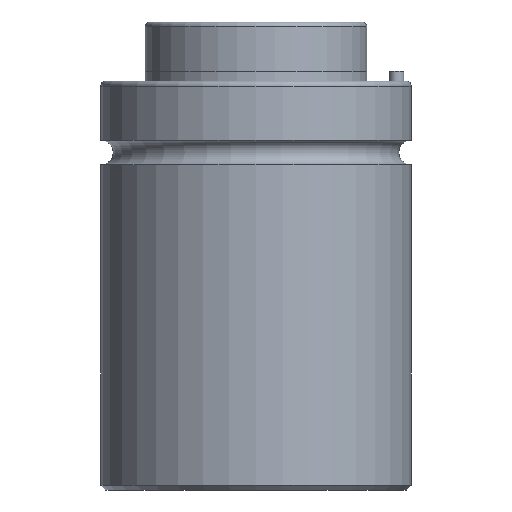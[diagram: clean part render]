
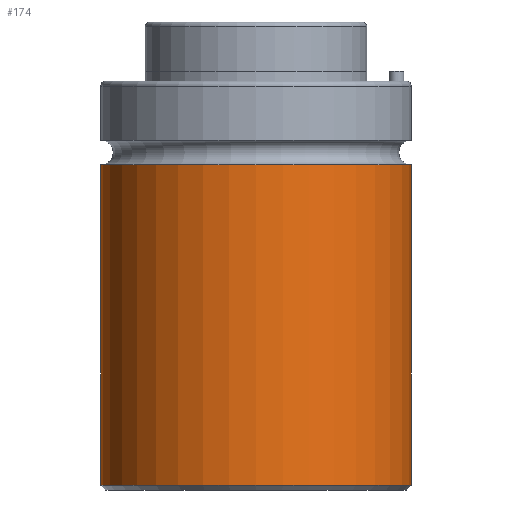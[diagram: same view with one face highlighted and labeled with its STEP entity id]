
A CAD part, front view. The second image highlights one B-rep face of the part: STEP entity #174.
In plain terms, the highlighted cylindrical face has radius 31.5 mm (diameter 63 mm), a partial arc.
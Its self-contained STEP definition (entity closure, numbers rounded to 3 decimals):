
#138=CYLINDRICAL_SURFACE('',#857,31.5);
#174=ADVANCED_FACE('',(#232),#138,.T.);
#232=FACE_OUTER_BOUND('',#279,.T.);
#279=EDGE_LOOP('',(#457,#458,#459,#460));
#344=CIRCLE('',#851,31.5);
#347=CIRCLE('',#856,31.5);
#457=ORIENTED_EDGE('',*,*,#677,.T.);
#458=ORIENTED_EDGE('',*,*,#678,.F.);
#459=ORIENTED_EDGE('',*,*,#679,.F.);
#460=ORIENTED_EDGE('',*,*,#674,.T.);
#598=VERTEX_POINT('',#1261);
#599=VERTEX_POINT('',#1263);
#600=VERTEX_POINT('',#1269);
#601=VERTEX_POINT('',#1271);
#674=EDGE_CURVE('',#599,#598,#344,.T.);
#677=EDGE_CURVE('',#598,#600,#745,.T.);
#678=EDGE_CURVE('',#601,#600,#347,.T.);
#679=EDGE_CURVE('',#599,#601,#746,.T.);
#745=LINE('',#1268,#781);
#746=LINE('',#1272,#782);
#781=VECTOR('',#1032,1.);
#782=VECTOR('',#1035,1.);
#851=AXIS2_PLACEMENT_3D('',#1262,#1022,#1023);
#856=AXIS2_PLACEMENT_3D('',#1270,#1033,#1034);
#857=AXIS2_PLACEMENT_3D('',#1273,#1036,#1037);
#1022=DIRECTION('',(0.,0.,-1.));
#1023=DIRECTION('',(0.,1.,0.));
#1032=DIRECTION('',(0.,0.,-1.));
#1033=DIRECTION('',(0.,0.,-1.));
#1034=DIRECTION('',(0.,1.,0.));
#1035=DIRECTION('',(0.,0.,-1.));
#1036=DIRECTION('',(0.,0.,-1.));
#1037=DIRECTION('',(0.,-1.,0.));
#1261=CARTESIAN_POINT('',(-31.5,0.,66.));
#1262=CARTESIAN_POINT('',(0.,0.,66.));
#1263=CARTESIAN_POINT('',(31.5,0.,66.));
#1268=CARTESIAN_POINT('',(-31.5,0.,66.));
#1269=CARTESIAN_POINT('',(-31.5,0.,1.));
#1270=CARTESIAN_POINT('',(0.,0.,1.));
#1271=CARTESIAN_POINT('',(31.5,0.,1.));
#1272=CARTESIAN_POINT('',(31.5,0.,66.));
#1273=CARTESIAN_POINT('',(0.,0.,66.));
